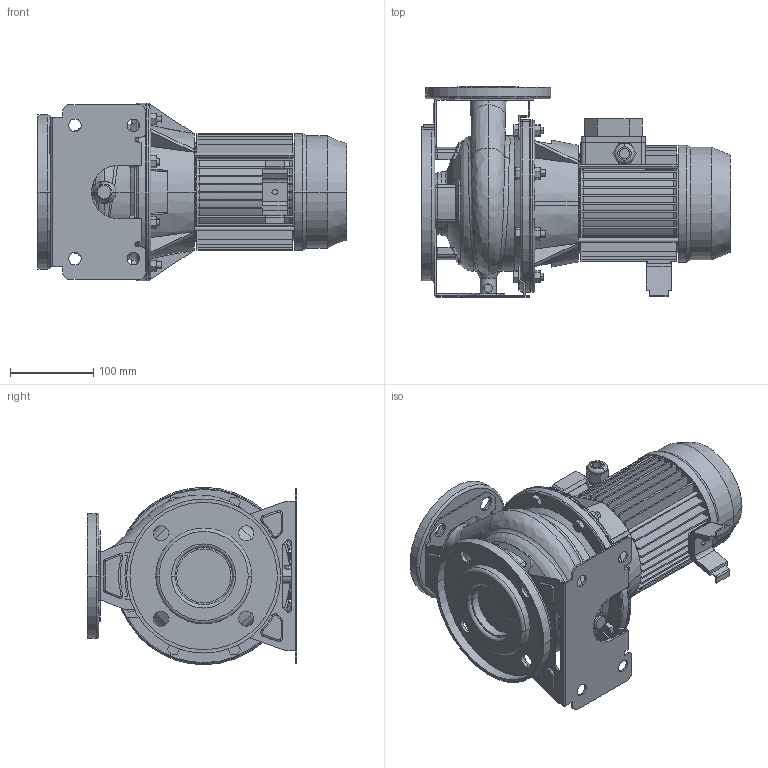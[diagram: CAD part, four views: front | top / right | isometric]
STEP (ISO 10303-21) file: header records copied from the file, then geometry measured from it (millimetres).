
FILE_DESCRIPTION((''),'2;1');
FILE_NAME('3M4_40-125_0_37_ASM','2016-09-16T',('rosa'),('"Ebara Pumps Europe +39.444.706811"'),'PRO/ENGINEER BY PARAMETRIC TECHNOLOGY CORPORATION, 2012130','PRO/ENGINEER BY PARAMETRIC TECHNOLOGY CORPORATION, 2012130','');
FILE_SCHEMA(('AUTOMOTIVE_DESIGN { 1 0 10303 214 1 1 1 1 }'));
Length unit declared in the file: millimetre
Products named in the file (12): CORPO_40-125_AF0; ASP_40-125; FLANGIA_DIN_65; MAND_40-125; FLANGIA_DIN_40; BASE_3M_40-125; CORPO_SALDATO_40-125_ASM; SUPPORTO_3M_160_71; MEC_71; SOSTEGNO_72005; 72015; 3M4_40-125_0_37_ASM
Assembly tree (11 placements, depth 3):
  3M4_40-125_0_37_ASM
    CORPO_SALDATO_40-125_ASM
      CORPO_40-125_AF0
      ASP_40-125
      FLANGIA_DIN_65
      MAND_40-125
      FLANGIA_DIN_40
      BASE_3M_40-125
    SUPPORTO_3M_160_71
    MEC_71
    SOSTEGNO_72005
    72015
Bounding box: 371 x 252 x 212.96 mm (x, y, z)
Volume: 5254877.5 mm3; surface area: 796972.1 mm2
Topology: 13 solids, 13 shells, 1092 faces, 2765 edges, 1753 vertices
Faces by surface type: plane 560, cylinder 320, cone 92, torus 68, bspline 46, sphere 6
Entity records: 47054 total; most frequent: CARTESIAN_POINT 10422, DIRECTION 5668, ORIENTED_EDGE 5514, EDGE_CURVE 2757, PRESENTATION_STYLE_ASSIGNMENT 2685, STYLED_ITEM 2685, CURVE_STYLE 2673, AXIS2_PLACEMENT_3D 2083
